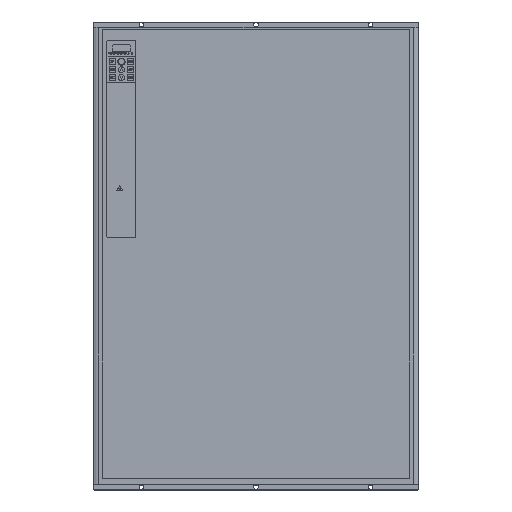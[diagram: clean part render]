
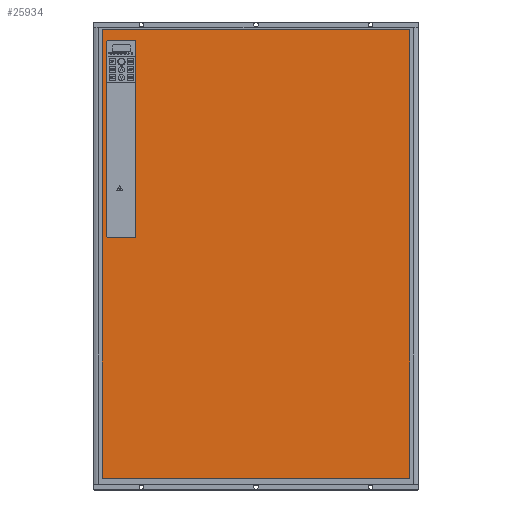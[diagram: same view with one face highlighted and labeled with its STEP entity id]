
A CAD part, top view. The second image highlights one B-rep face of the part: STEP entity #25934.
In plain terms, the highlighted planar face has unit normal (0, 0, 1).
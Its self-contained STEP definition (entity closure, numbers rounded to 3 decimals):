
#1469=FACE_BOUND('',#5368,.T.);
#1895=PLANE('',#28131);
#3215=FACE_OUTER_BOUND('',#5367,.T.);
#5367=EDGE_LOOP('',(#19518,#19519,#19520,#19521));
#5368=EDGE_LOOP('',(#19522,#19523,#19524,#19525,#19526,#19527,#19528,#19529));
#6718=LINE('',#38244,#8920);
#6722=LINE('',#38256,#8924);
#6726=LINE('',#38268,#8928);
#6730=LINE('',#38279,#8932);
#6734=LINE('',#38289,#8936);
#6737=LINE('',#38295,#8939);
#6740=LINE('',#38301,#8942);
#6743=LINE('',#38305,#8945);
#8920=VECTOR('',#31797,10.);
#8924=VECTOR('',#31809,10.);
#8928=VECTOR('',#31821,10.);
#8932=VECTOR('',#31833,10.);
#8936=VECTOR('',#31841,10.);
#8939=VECTOR('',#31846,10.);
#8942=VECTOR('',#31851,10.);
#8945=VECTOR('',#31856,10.);
#11402=CIRCLE('',#28111,2.);
#11404=CIRCLE('',#28115,2.);
#11406=CIRCLE('',#28119,2.);
#11408=CIRCLE('',#28123,2.);
#12386=VERTEX_POINT('',#38234);
#12387=VERTEX_POINT('',#38235);
#12390=VERTEX_POINT('',#38243);
#12392=VERTEX_POINT('',#38249);
#12394=VERTEX_POINT('',#38255);
#12396=VERTEX_POINT('',#38261);
#12398=VERTEX_POINT('',#38267);
#12400=VERTEX_POINT('',#38273);
#12404=VERTEX_POINT('',#38286);
#12405=VERTEX_POINT('',#38288);
#12407=VERTEX_POINT('',#38294);
#12409=VERTEX_POINT('',#38300);
#15056=EDGE_CURVE('',#12386,#12387,#11402,.T.);
#15060=EDGE_CURVE('',#12390,#12386,#6718,.T.);
#15063=EDGE_CURVE('',#12392,#12390,#11404,.T.);
#15066=EDGE_CURVE('',#12394,#12392,#6722,.T.);
#15069=EDGE_CURVE('',#12396,#12394,#11406,.T.);
#15072=EDGE_CURVE('',#12398,#12396,#6726,.T.);
#15075=EDGE_CURVE('',#12400,#12398,#11408,.T.);
#15078=EDGE_CURVE('',#12387,#12400,#6730,.T.);
#15082=EDGE_CURVE('',#12405,#12404,#6734,.T.);
#15085=EDGE_CURVE('',#12407,#12405,#6737,.T.);
#15088=EDGE_CURVE('',#12409,#12407,#6740,.T.);
#15091=EDGE_CURVE('',#12404,#12409,#6743,.T.);
#19518=ORIENTED_EDGE('',*,*,#15091,.T.);
#19519=ORIENTED_EDGE('',*,*,#15088,.T.);
#19520=ORIENTED_EDGE('',*,*,#15085,.T.);
#19521=ORIENTED_EDGE('',*,*,#15082,.T.);
#19522=ORIENTED_EDGE('',*,*,#15056,.T.);
#19523=ORIENTED_EDGE('',*,*,#15078,.T.);
#19524=ORIENTED_EDGE('',*,*,#15075,.T.);
#19525=ORIENTED_EDGE('',*,*,#15072,.T.);
#19526=ORIENTED_EDGE('',*,*,#15069,.T.);
#19527=ORIENTED_EDGE('',*,*,#15066,.T.);
#19528=ORIENTED_EDGE('',*,*,#15063,.T.);
#19529=ORIENTED_EDGE('',*,*,#15060,.T.);
#25934=ADVANCED_FACE('',(#3215,#1469),#1895,.T.);
#28111=AXIS2_PLACEMENT_3D('',#38236,#31789,#31790);
#28115=AXIS2_PLACEMENT_3D('',#38250,#31802,#31803);
#28119=AXIS2_PLACEMENT_3D('',#38262,#31814,#31815);
#28123=AXIS2_PLACEMENT_3D('',#38274,#31826,#31827);
#28131=AXIS2_PLACEMENT_3D('',#38306,#31857,#31858);
#31789=DIRECTION('center_axis',(0.,0.,-1.));
#31790=DIRECTION('ref_axis',(-1.,0.,0.));
#31797=DIRECTION('',(-1.,0.,0.));
#31802=DIRECTION('center_axis',(0.,0.,-1.));
#31803=DIRECTION('ref_axis',(0.,-1.,0.));
#31809=DIRECTION('',(0.,-1.,0.));
#31814=DIRECTION('center_axis',(0.,0.,-1.));
#31815=DIRECTION('ref_axis',(1.,0.,0.));
#31821=DIRECTION('',(1.,0.,0.));
#31826=DIRECTION('center_axis',(0.,0.,-1.));
#31827=DIRECTION('ref_axis',(0.,1.,0.));
#31833=DIRECTION('',(0.,1.,0.));
#31841=DIRECTION('',(1.,0.,0.));
#31846=DIRECTION('',(0.,-1.,0.));
#31851=DIRECTION('',(-1.,0.,0.));
#31856=DIRECTION('',(0.,1.,0.));
#31857=DIRECTION('center_axis',(0.,0.,1.));
#31858=DIRECTION('ref_axis',(1.,0.,0.));
#38234=CARTESIAN_POINT('',(-323.,550.,376.6));
#38235=CARTESIAN_POINT('',(-325.,552.,376.6));
#38236=CARTESIAN_POINT('Origin',(-323.,552.,376.6));
#38243=CARTESIAN_POINT('',(-264.,550.,376.6));
#38244=CARTESIAN_POINT('',(-132.,550.,376.6));
#38249=CARTESIAN_POINT('',(-262.,552.,376.6));
#38250=CARTESIAN_POINT('Origin',(-264.,552.,376.6));
#38255=CARTESIAN_POINT('',(-262.,978.,376.6));
#38256=CARTESIAN_POINT('',(-262.,746.25,376.6));
#38261=CARTESIAN_POINT('',(-264.,980.,376.6));
#38262=CARTESIAN_POINT('Origin',(-264.,978.,376.6));
#38267=CARTESIAN_POINT('',(-323.,980.,376.6));
#38268=CARTESIAN_POINT('',(-161.5,980.,376.6));
#38273=CARTESIAN_POINT('',(-325.,978.,376.6));
#38274=CARTESIAN_POINT('Origin',(-323.,978.,376.6));
#38279=CARTESIAN_POINT('',(-325.,533.25,376.6));
#38286=CARTESIAN_POINT('',(335.,25.,376.6));
#38288=CARTESIAN_POINT('',(-335.,25.,376.6));
#38289=CARTESIAN_POINT('',(-335.,25.,376.6));
#38294=CARTESIAN_POINT('',(-335.,1004.,376.6));
#38295=CARTESIAN_POINT('',(-335.,1004.,376.6));
#38300=CARTESIAN_POINT('',(335.,1004.,376.6));
#38301=CARTESIAN_POINT('',(335.,1004.,376.6));
#38305=CARTESIAN_POINT('',(335.,25.,376.6));
#38306=CARTESIAN_POINT('Origin',(0.,514.5,376.6));
